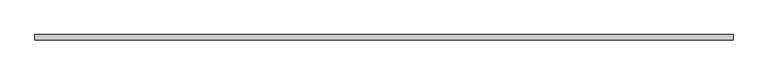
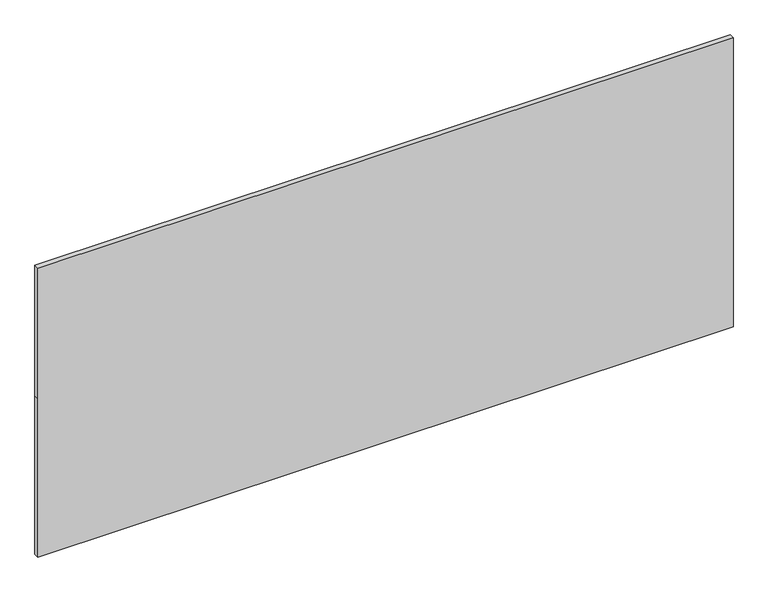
"""IFC4 building model written with IfcOpenShell, lengths in millimetres: plate geometry, Panneau système : Vitrages extérieur."""

from ifc_helpers import new_model, si_unit, frame, origin, place, context, project, spatial, polyline, outline, extrude, source, transform, mapped, element, save


def plate_7e4ce03b(model_context):
    return source(origin(), model_context, "Body", "SweptSolid", [
        extrude(outline(polyline([(0.0, -1609.8951724), (0.0, 1609.8951724), (775.0, 1609.8951724), (1415.0, 1609.8951724), (1415.0, -1609.8951724), (775.0, -1609.8951724), (0.0, -1609.8951724)])), frame((0.0, -12.0, 0.0), z_axis=(0.0, 1.0, 0.0), x_axis=(0.0, 0.0, 1.0)), (0.0, 0.0, 1.0), 24.0),
    ])


if __name__ == "__main__":
    model = new_model("IFC4")
    model_context = context("Model", 3, world=origin())
    ifc_project = project(units=[si_unit("LENGTHUNIT", "METRE", prefix="MILLI")], contexts=[model_context])
    site = spatial("IfcSite", under=ifc_project)
    building = spatial("IfcBuilding", under=site)
    placement = place(None, origin())
    plate_shape = plate_7e4ce03b(model_context)
    element("IfcPlate", 1, ObjectType="Panneau système : Vitrages extérieur", at=placement, inside=building, context=model_context, shape_type="MappedRepresentation", body=[
        mapped(plate_shape, transform((0.0, 0.0, 0.0), x_axis=(1.0, 0.0, 0.0), y_axis=(0.0, 1.0, 0.0), z_axis=(0.0, 0.0, 1.0))),
    ])
    save(model, "model.ifc")
